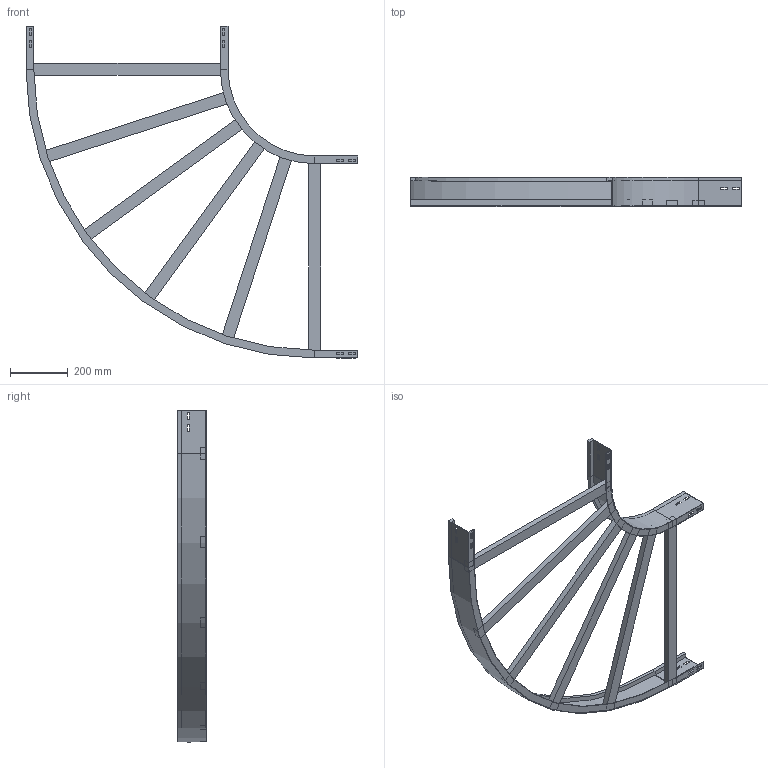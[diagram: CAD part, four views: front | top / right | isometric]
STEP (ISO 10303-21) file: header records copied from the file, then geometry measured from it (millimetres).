
FILE_DESCRIPTION (( 'STEP AP214' ), '1' );
FILE_NAME ('A2_10B3D700.step', '2025-02-21T15:23:07', ( '' ), ( '' ), 'SwSTEP 2.0', 'SolidWorks 2023', '' );
FILE_SCHEMA (( 'AUTOMOTIVE_DESIGN' ));
Length unit declared in the file: millimetre
Products named in the file (4): A2_LONGH.INTERNO 90°_H100_R300; A2_10B3D700; TRAVERSINO_700; A2_LONGH.ESTERNO 90°_H100_R300+700
Assembly tree (8 placements, depth 2):
  A2_10B3D700
    A2_LONGH.INTERNO 90°_H100_R300
    A2_LONGH.ESTERNO 90°_H100_R300+700
    TRAVERSINO_700  x6
Bounding box: 1150 x 100 x 1150 mm (x, y, z)
Volume: 4545411.6 mm3; surface area: 1269334.1 mm2
Topology: 8 solids, 8 shells, 152 faces, 376 edges, 240 vertices
Faces by surface type: plane 144, cylinder 8
Entity records: 3845 total; most frequent: CARTESIAN_POINT 649, ORIENTED_EDGE 632, DIRECTION 598, EDGE_CURVE 316, LINE 300, VECTOR 300, VERTEX_POINT 200, EDGE_LOOP 154
